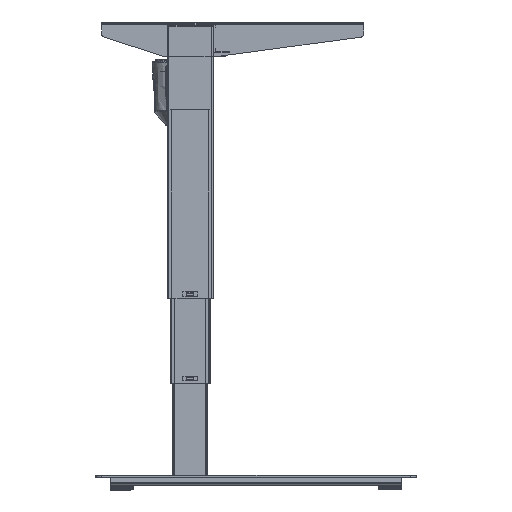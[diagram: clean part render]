
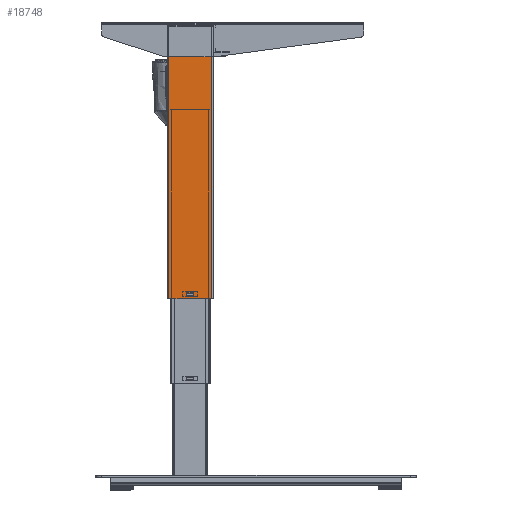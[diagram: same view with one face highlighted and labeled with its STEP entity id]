
A CAD part, left-side view. The second image highlights one B-rep face of the part: STEP entity #18748.
In plain terms, the highlighted planar face has unit normal (-1, 0, 0).
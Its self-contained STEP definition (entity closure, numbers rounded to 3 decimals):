
#1041 = DIRECTION ( 'NONE',  ( 1., 0., 0. ) ) ;
#1190 = CARTESIAN_POINT ( 'NONE',  ( -30., 37., 0. ) ) ;
#2062 = CARTESIAN_POINT ( 'NONE',  ( -30., 6., 6. ) ) ;
#2298 = EDGE_CURVE ( 'NONE', #70230, #36833, #30489, .T. ) ;
#2717 = EDGE_CURVE ( 'NONE', #36833, #21447, #36387, .T. ) ;
#6681 = DIRECTION ( 'NONE',  ( 0., -1., 0. ) ) ;
#7245 = CARTESIAN_POINT ( 'NONE',  ( -30., 37., 480. ) ) ;
#7635 = DIRECTION ( 'NONE',  ( 0., 0., -1. ) ) ;
#8451 = LINE ( 'NONE', #51290, #14396 ) ;
#9709 = DIRECTION ( 'NONE',  ( 0., 0., 1. ) ) ;
#10082 = CARTESIAN_POINT ( 'NONE',  ( -30., 6., 10. ) ) ;
#12385 = VERTEX_POINT ( 'NONE', #14540 ) ;
#12427 = VECTOR ( 'NONE', #9709, 1000. ) ;
#14221 = VECTOR ( 'NONE', #63614, 1000. ) ;
#14396 = VECTOR ( 'NONE', #62570, 1000. ) ;
#14540 = CARTESIAN_POINT ( 'NONE',  ( -30., -37., 0. ) ) ;
#14587 = VECTOR ( 'NONE', #29272, 1000. ) ;
#15735 = CARTESIAN_POINT ( 'NONE',  ( -30., -37., 475. ) ) ;
#17266 = CARTESIAN_POINT ( 'NONE',  ( -30., -6., 6. ) ) ;
#18748 = ADVANCED_FACE ( 'NONE', ( #35257, #19021 ), #61294, .F. ) ;
#18972 = CARTESIAN_POINT ( 'NONE',  ( -30., 37., 0. ) ) ;
#19021 = FACE_OUTER_BOUND ( 'NONE', #46009, .T. ) ;
#20259 = DIRECTION ( 'NONE',  ( 0., 1., 0. ) ) ;
#21129 = VECTOR ( 'NONE', #6681, 1000. ) ;
#21447 = VERTEX_POINT ( 'NONE', #10082 ) ;
#22085 = EDGE_LOOP ( 'NONE', ( #38900, #48237, #56193, #25847 ) ) ;
#23552 = ORIENTED_EDGE ( 'NONE', *, *, #46862, .T. ) ;
#25847 = ORIENTED_EDGE ( 'NONE', *, *, #2298, .T. ) ;
#26742 = AXIS2_PLACEMENT_3D ( 'NONE', #7245, #1041, #50978 ) ;
#27698 = VERTEX_POINT ( 'NONE', #55309 ) ;
#29114 = LINE ( 'NONE', #51036, #14587 ) ;
#29272 = DIRECTION ( 'NONE',  ( 0., 0., -1. ) ) ;
#30489 = LINE ( 'NONE', #35854, #14221 ) ;
#32293 = LINE ( 'NONE', #56444, #58022 ) ;
#35257 = FACE_BOUND ( 'NONE', #22085, .T. ) ;
#35854 = CARTESIAN_POINT ( 'NONE',  ( -30., 6., 6. ) ) ;
#36357 = ORIENTED_EDGE ( 'NONE', *, *, #69003, .F. ) ;
#36387 = LINE ( 'NONE', #48445, #12427 ) ;
#36833 = VERTEX_POINT ( 'NONE', #2062 ) ;
#37120 = VECTOR ( 'NONE', #20259, 1000. ) ;
#37512 = EDGE_CURVE ( 'NONE', #27698, #70230, #45040, .T. ) ;
#38900 = ORIENTED_EDGE ( 'NONE', *, *, #2717, .T. ) ;
#43191 = EDGE_CURVE ( 'NONE', #54498, #61958, #32293, .T. ) ;
#43676 = EDGE_CURVE ( 'NONE', #61958, #12385, #51944, .T. ) ;
#45040 = LINE ( 'NONE', #46574, #45944 ) ;
#45944 = VECTOR ( 'NONE', #46091, 1000. ) ;
#46009 = EDGE_LOOP ( 'NONE', ( #36357, #23552, #68306, #55758 ) ) ;
#46091 = DIRECTION ( 'NONE',  ( 0., 0., -1. ) ) ;
#46574 = CARTESIAN_POINT ( 'NONE',  ( -30., -6., 10. ) ) ;
#46862 = EDGE_CURVE ( 'NONE', #56798, #54498, #62811, .T. ) ;
#48237 = ORIENTED_EDGE ( 'NONE', *, *, #55424, .T. ) ;
#48445 = CARTESIAN_POINT ( 'NONE',  ( -30., 6., 10. ) ) ;
#50978 = DIRECTION ( 'NONE',  ( 0., 1., 0. ) ) ;
#51036 = CARTESIAN_POINT ( 'NONE',  ( -30., -37., 480. ) ) ;
#51290 = CARTESIAN_POINT ( 'NONE',  ( -30., 6., 10. ) ) ;
#51944 = LINE ( 'NONE', #1190, #21129 ) ;
#54498 = VERTEX_POINT ( 'NONE', #65547 ) ;
#55309 = CARTESIAN_POINT ( 'NONE',  ( -30., -6., 10. ) ) ;
#55424 = EDGE_CURVE ( 'NONE', #21447, #27698, #8451, .T. ) ;
#55758 = ORIENTED_EDGE ( 'NONE', *, *, #43676, .T. ) ;
#56193 = ORIENTED_EDGE ( 'NONE', *, *, #37512, .T. ) ;
#56444 = CARTESIAN_POINT ( 'NONE',  ( -30., 37., 480. ) ) ;
#56798 = VERTEX_POINT ( 'NONE', #15735 ) ;
#58022 = VECTOR ( 'NONE', #7635, 1000. ) ;
#61294 = PLANE ( 'NONE',  #26742 ) ;
#61958 = VERTEX_POINT ( 'NONE', #18972 ) ;
#62570 = DIRECTION ( 'NONE',  ( 0., -1., 0. ) ) ;
#62811 = LINE ( 'NONE', #64767, #37120 ) ;
#63614 = DIRECTION ( 'NONE',  ( 0., 1., 0. ) ) ;
#64767 = CARTESIAN_POINT ( 'NONE',  ( -30., -40., 475. ) ) ;
#65547 = CARTESIAN_POINT ( 'NONE',  ( -30., 37., 475. ) ) ;
#68306 = ORIENTED_EDGE ( 'NONE', *, *, #43191, .T. ) ;
#69003 = EDGE_CURVE ( 'NONE', #56798, #12385, #29114, .T. ) ;
#70230 = VERTEX_POINT ( 'NONE', #17266 ) ;
